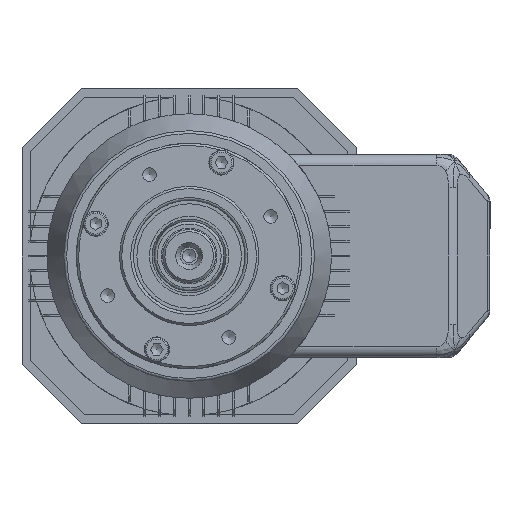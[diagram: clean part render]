
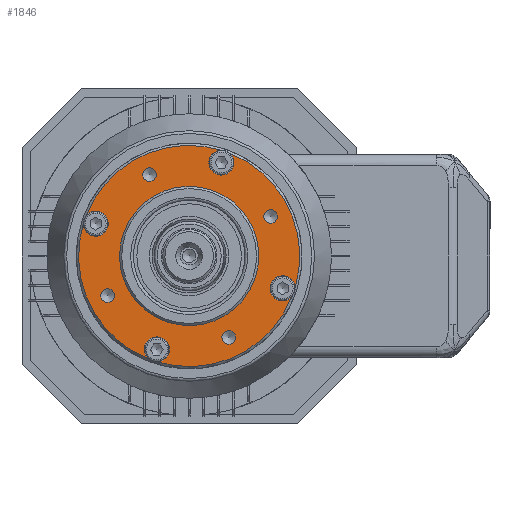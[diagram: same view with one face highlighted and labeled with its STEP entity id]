
A CAD part, left-side view. The second image highlights one B-rep face of the part: STEP entity #1846.
In plain terms, the highlighted planar face has unit normal (-1, 0, 0) as drawn and (1, 0, 0) by its records, which use the part's own axes.
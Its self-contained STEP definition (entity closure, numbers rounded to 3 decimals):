
#1000=CARTESIAN_POINT('',(25.,1.708,39.663));
#1001=VERTEX_POINT('',#1000);
#1002=CARTESIAN_POINT('',(25.,-1.708,39.663));
#1003=VERTEX_POINT('',#1002);
#1017=CARTESIAN_POINT('',(25.,39.663,1.708));
#1018=VERTEX_POINT('',#1017);
#1019=CARTESIAN_POINT('',(25.,0.,0.0));
#1020=DIRECTION('',(-1.0,0.0,0.0));
#1021=DIRECTION('',(0.0,-1.0,0.0));
#1022=AXIS2_PLACEMENT_3D('',#1019,#1020,#1021);
#1023=CIRCLE('',#1022,39.7);
#1024=EDGE_CURVE('',#1001,#1018,#1023,.T.);
#1026=CARTESIAN_POINT('',(25.,39.663,-1.708));
#1027=VERTEX_POINT('',#1026);
#1041=CARTESIAN_POINT('',(25.,1.708,-39.663));
#1042=VERTEX_POINT('',#1041);
#1043=CARTESIAN_POINT('',(25.,0.,0.0));
#1044=DIRECTION('',(-1.0,0.0,0.0));
#1045=DIRECTION('',(0.0,-1.0,0.0));
#1046=AXIS2_PLACEMENT_3D('',#1043,#1044,#1045);
#1047=CIRCLE('',#1046,39.7);
#1048=EDGE_CURVE('',#1027,#1042,#1047,.T.);
#1050=CARTESIAN_POINT('',(25.,-1.708,-39.663));
#1051=VERTEX_POINT('',#1050);
#1065=CARTESIAN_POINT('',(25.,-39.663,-1.708));
#1066=VERTEX_POINT('',#1065);
#1067=CARTESIAN_POINT('',(25.,0.,0.0));
#1068=DIRECTION('',(-1.0,0.0,0.0));
#1069=DIRECTION('',(0.0,-1.0,0.0));
#1070=AXIS2_PLACEMENT_3D('',#1067,#1068,#1069);
#1071=CIRCLE('',#1070,39.7);
#1072=EDGE_CURVE('',#1051,#1066,#1071,.T.);
#1074=CARTESIAN_POINT('',(25.,-39.663,1.708));
#1075=VERTEX_POINT('',#1074);
#1089=CARTESIAN_POINT('',(25.,0.,0.0));
#1090=DIRECTION('',(-1.0,0.0,0.0));
#1091=DIRECTION('',(0.0,-1.0,0.0));
#1092=AXIS2_PLACEMENT_3D('',#1089,#1090,#1091);
#1093=CIRCLE('',#1092,39.7);
#1094=EDGE_CURVE('',#1075,#1003,#1093,.T.);
#1116=CARTESIAN_POINT('',(25.,-35.5,0.));
#1117=DIRECTION('',(-1.0,0.0,0.0));
#1118=DIRECTION('',(0.0,0.0,1.0));
#1119=AXIS2_PLACEMENT_3D('',#1116,#1117,#1118);
#1120=CIRCLE('',#1119,4.5);
#1121=EDGE_CURVE('',#1075,#1066,#1120,.T.);
#1143=CARTESIAN_POINT('',(25.,0.,-35.5));
#1144=DIRECTION('',(-1.0,0.0,0.0));
#1145=DIRECTION('',(0.0,-1.0,0.0));
#1146=AXIS2_PLACEMENT_3D('',#1143,#1144,#1145);
#1147=CIRCLE('',#1146,4.5);
#1148=EDGE_CURVE('',#1051,#1042,#1147,.T.);
#1381=CARTESIAN_POINT('',(25.,25.,0.0));
#1382=VERTEX_POINT('',#1381);
#1383=CARTESIAN_POINT('',(25.,0.,0.0));
#1384=DIRECTION('',(1.0,0.0,0.0));
#1385=DIRECTION('',(0.0,1.0,0.0));
#1386=AXIS2_PLACEMENT_3D('',#1383,#1384,#1385);
#1387=CIRCLE('',#1386,25.);
#1388=EDGE_CURVE('',#1382,#1382,#1387,.T.);
#1508=CARTESIAN_POINT('',(25.,20.522,-22.981));
#1509=VERTEX_POINT('',#1508);
#1510=CARTESIAN_POINT('',(25.,22.981,-22.981));
#1511=DIRECTION('',(-1.0,0.0,0.0));
#1512=DIRECTION('',(0.0,-1.0,0.0));
#1513=AXIS2_PLACEMENT_3D('',#1510,#1511,#1512);
#1514=CIRCLE('',#1513,2.459);
#1515=EDGE_CURVE('',#1509,#1509,#1514,.T.);
#1577=CARTESIAN_POINT('',(25.,-22.981,-20.522));
#1578=VERTEX_POINT('',#1577);
#1579=CARTESIAN_POINT('',(25.,-22.981,-22.981));
#1580=DIRECTION('',(-1.0,0.0,0.0));
#1581=DIRECTION('',(0.0,0.0,1.0));
#1582=AXIS2_PLACEMENT_3D('',#1579,#1580,#1581);
#1583=CIRCLE('',#1582,2.459);
#1584=EDGE_CURVE('',#1578,#1578,#1583,.T.);
#1646=CARTESIAN_POINT('',(25.,-20.522,22.981));
#1647=VERTEX_POINT('',#1646);
#1648=CARTESIAN_POINT('',(25.,-22.981,22.981));
#1649=DIRECTION('',(-1.0,0.0,0.0));
#1650=DIRECTION('',(0.0,1.0,0.0));
#1651=AXIS2_PLACEMENT_3D('',#1648,#1649,#1650);
#1652=CIRCLE('',#1651,2.459);
#1653=EDGE_CURVE('',#1647,#1647,#1652,.T.);
#1695=CARTESIAN_POINT('',(25.,0.,35.5));
#1696=DIRECTION('',(-1.0,0.0,0.0));
#1697=DIRECTION('',(0.0,1.0,0.0));
#1698=AXIS2_PLACEMENT_3D('',#1695,#1696,#1697);
#1699=CIRCLE('',#1698,4.5);
#1700=EDGE_CURVE('',#1001,#1003,#1699,.T.);
#1742=CARTESIAN_POINT('',(25.,22.981,20.522));
#1743=VERTEX_POINT('',#1742);
#1744=CARTESIAN_POINT('',(25.,22.981,22.981));
#1745=DIRECTION('',(-1.0,0.0,0.0));
#1746=DIRECTION('',(0.0,0.0,-1.0));
#1747=AXIS2_PLACEMENT_3D('',#1744,#1745,#1746);
#1748=CIRCLE('',#1747,2.459);
#1749=EDGE_CURVE('',#1743,#1743,#1748,.T.);
#1791=CARTESIAN_POINT('',(25.,35.5,0.0));
#1792=DIRECTION('',(-1.0,0.0,0.0));
#1793=DIRECTION('',(0.0,0.0,-1.0));
#1794=AXIS2_PLACEMENT_3D('',#1791,#1792,#1793);
#1795=CIRCLE('',#1794,4.5);
#1796=EDGE_CURVE('',#1027,#1018,#1795,.T.);
#1816=CARTESIAN_POINT('',(25.,32.75,0.0));
#1817=DIRECTION('',(1.0,0.0,0.0));
#1818=DIRECTION('',(0.0,0.0,-1.0));
#1819=AXIS2_PLACEMENT_3D('',#1816,#1817,#1818);
#1820=PLANE('',#1819);
#1821=ORIENTED_EDGE('',*,*,#1094,.F.);
#1822=ORIENTED_EDGE('',*,*,#1121,.T.);
#1823=ORIENTED_EDGE('',*,*,#1072,.F.);
#1824=ORIENTED_EDGE('',*,*,#1148,.T.);
#1825=ORIENTED_EDGE('',*,*,#1048,.F.);
#1826=ORIENTED_EDGE('',*,*,#1796,.T.);
#1827=ORIENTED_EDGE('',*,*,#1024,.F.);
#1828=ORIENTED_EDGE('',*,*,#1700,.T.);
#1829=EDGE_LOOP('',(#1821,#1822,#1823,#1824,#1825,#1826,#1827,#1828));
#1830=FACE_OUTER_BOUND('',#1829,.T.);
#1831=ORIENTED_EDGE('',*,*,#1388,.F.);
#1832=EDGE_LOOP('',(#1831));
#1833=FACE_BOUND('',#1832,.T.);
#1834=ORIENTED_EDGE('',*,*,#1515,.T.);
#1835=EDGE_LOOP('',(#1834));
#1836=FACE_BOUND('',#1835,.T.);
#1837=ORIENTED_EDGE('',*,*,#1584,.T.);
#1838=EDGE_LOOP('',(#1837));
#1839=FACE_BOUND('',#1838,.T.);
#1840=ORIENTED_EDGE('',*,*,#1653,.T.);
#1841=EDGE_LOOP('',(#1840));
#1842=FACE_BOUND('',#1841,.T.);
#1843=ORIENTED_EDGE('',*,*,#1749,.T.);
#1844=EDGE_LOOP('',(#1843));
#1845=FACE_BOUND('',#1844,.T.);
#1846=ADVANCED_FACE('',(#1830,#1833,#1836,#1839,#1842,#1845),#1820,.T.);
